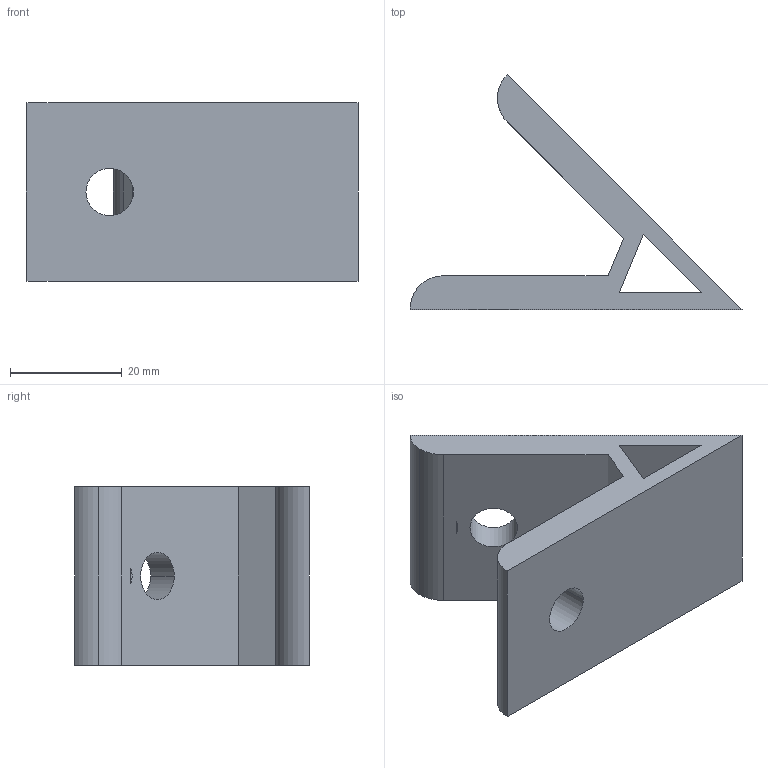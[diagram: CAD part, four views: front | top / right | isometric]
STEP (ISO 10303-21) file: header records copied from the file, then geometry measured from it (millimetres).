
FILE_DESCRIPTION (( 'STEP AP203' ), '1' );
FILE_NAME ('66－CE-40-45度.STEP', '2015-07-09T07:58:17', ( '' ), ( '' ), 'SwSTEP 2.0', 'SolidWorks 2013', '' );
FILE_SCHEMA (( 'CONFIG_CONTROL_DESIGN' ));
Length unit declared in the file: millimetre
Products named in the file (1): 66ㄜCE-40-45僅
Bounding box: 59.5 x 42.07 x 32 mm (x, y, z)
Volume: 17453.2 mm3; surface area: 9065.1 mm2
Topology: 1 solids, 1 shells, 22 faces, 54 edges, 36 vertices
Faces by surface type: plane 12, cylinder 10
Entity records: 744 total; most frequent: CARTESIAN_POINT 122, DIRECTION 114, ORIENTED_EDGE 108, EDGE_CURVE 54, AXIS2_PLACEMENT_3D 40, VERTEX_POINT 36, LINE 34, VECTOR 34
